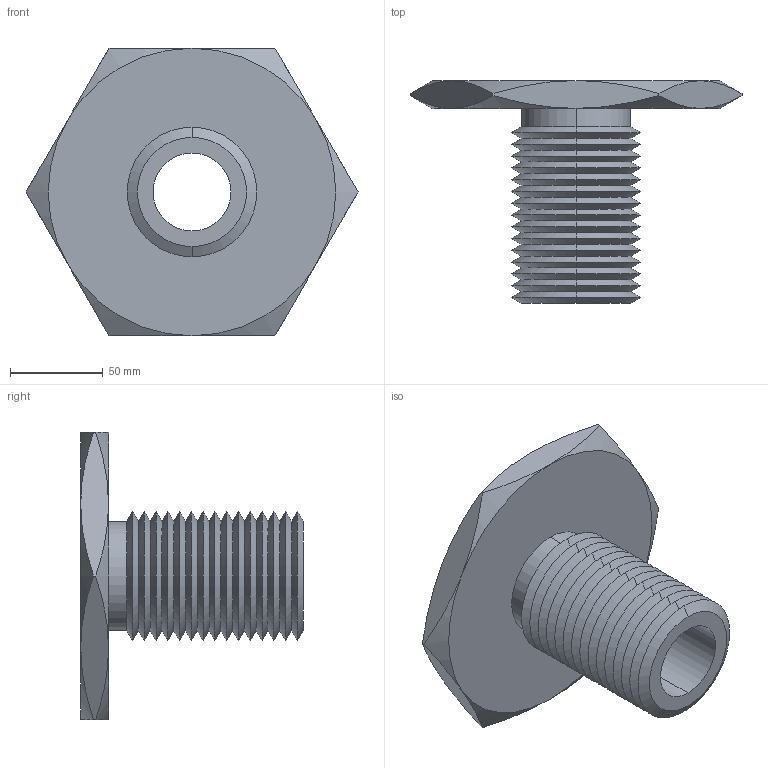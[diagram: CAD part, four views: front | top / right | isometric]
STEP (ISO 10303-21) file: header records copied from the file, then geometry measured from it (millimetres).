
FILE_DESCRIPTION (( 'STEP AP203' ), '1' );
FILE_NAME ('63302.W5275_M42x4,5.step', '2013-12-08T11:53:32', ( 'User' ), ( '' ), 'SwSTEP 2.0', 'SolidWorks 2009', '' );
FILE_SCHEMA (( 'CONFIG_CONTROL_DESIGN' ));
Length unit declared in the file: millimetre
Products named in the file (1): 63302.W5275_M42x4,5
Bounding box: 178.98 x 120 x 155 mm (x, y, z)
Volume: 473388.1 mm3; surface area: 100772.4 mm2
Topology: 1 solids, 1 shells, 87 faces, 178 edges, 94 vertices
Faces by surface type: cone 74, plane 9, cylinder 4
Entity records: 2479 total; most frequent: CARTESIAN_POINT 584, DIRECTION 412, ORIENTED_EDGE 356, EDGE_CURVE 178, AXIS2_PLACEMENT_3D 170, VERTEX_POINT 94, EDGE_LOOP 90, ADVANCED_FACE 87
